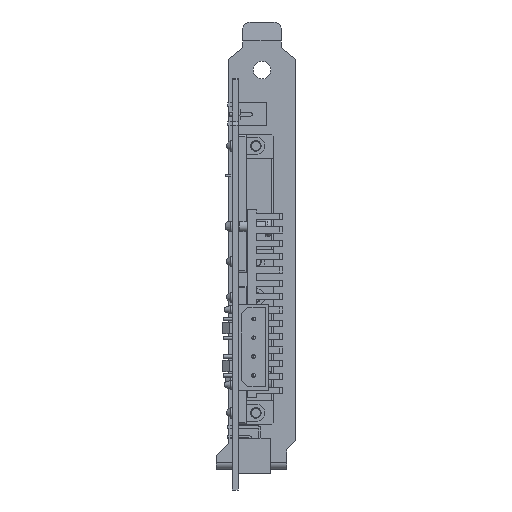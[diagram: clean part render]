
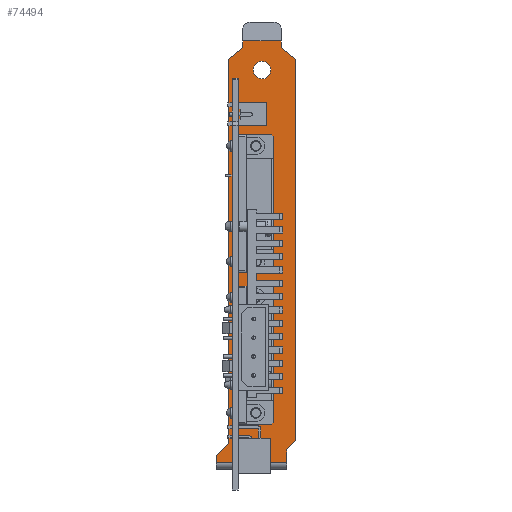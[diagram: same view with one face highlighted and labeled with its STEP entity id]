
A CAD part, front view. The second image highlights one B-rep face of the part: STEP entity #74494.
In plain terms, the highlighted planar face has unit normal (0, -1, 0).
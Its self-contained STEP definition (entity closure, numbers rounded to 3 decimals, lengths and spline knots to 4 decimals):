
#17318=DIRECTION('',(0.,0.,1.));
#17319=VECTOR('',#17318,1.4669);
#17320=CARTESIAN_POINT('',(0.062,0.325,-1.701));
#17321=LINE('',#17320,#17319);
#17322=DIRECTION('',(1.,0.,0.));
#17323=VECTOR('',#17322,0.3524);
#17324=CARTESIAN_POINT('',(0.062,0.325,-0.2341));
#17325=LINE('',#17324,#17323);
#17338=DIRECTION('',(1.,0.,0.));
#17339=VECTOR('',#17338,0.412);
#17340=CARTESIAN_POINT('',(0.108,0.325,0.7642));
#17341=LINE('',#17340,#17339);
#17342=DIRECTION('',(0.,0.,-1.));
#17343=VECTOR('',#17342,0.074);
#17344=CARTESIAN_POINT('',(0.52,0.325,0.7642));
#17345=LINE('',#17344,#17343);
#17346=DIRECTION('',(-0.788,0.,0.616));
#17347=VECTOR('',#17346,0.1967);
#17348=CARTESIAN_POINT('',(0.675,0.325,0.5691));
#17349=LINE('',#17348,#17347);
#17350=DIRECTION('',(0.707,0.,0.707));
#17351=VECTOR('',#17350,0.1414);
#17352=CARTESIAN_POINT('',(0.575,0.325,-3.5828));
#17353=LINE('',#17352,#17351);
#17354=DIRECTION('',(0.,0.,1.));
#17355=VECTOR('',#17354,0.137);
#17356=CARTESIAN_POINT('',(0.575,0.325,-3.7198));
#17357=LINE('',#17356,#17355);
#17358=DIRECTION('',(-1.,0.,0.));
#17359=VECTOR('',#17358,0.75);
#17360=CARTESIAN_POINT('',(0.575,0.325,-3.7198));
#17361=LINE('',#17360,#17359);
#17362=DIRECTION('',(-0.707,0.,-0.707));
#17363=VECTOR('',#17362,0.181);
#17364=CARTESIAN_POINT('',(-0.047,0.325,-3.5138));
#17365=LINE('',#17364,#17363);
#17366=DIRECTION('',(0.,0.,-1.));
#17367=VECTOR('',#17366,4.0829);
#17368=CARTESIAN_POINT('',(-0.047,0.325,0.5691));
#17369=LINE('',#17368,#17367);
#17370=DIRECTION('',(-0.788,0.,-0.616));
#17371=VECTOR('',#17370,0.1967);
#17372=CARTESIAN_POINT('',(0.108,0.325,0.6902));
#17373=LINE('',#17372,#17371);
#17374=DIRECTION('',(0.,0.,-1.));
#17375=VECTOR('',#17374,0.074);
#17376=CARTESIAN_POINT('',(0.108,0.325,0.7642));
#17377=LINE('',#17376,#17375);
#17378=CARTESIAN_POINT('',(0.314,0.325,0.4532));
#17379=DIRECTION('',(0.,1.,0.));
#17380=DIRECTION('',(0.,0.,1.));
#17381=AXIS2_PLACEMENT_3D('',#17378,#17379,#17380);
#17383=CARTESIAN_POINT('',(0.314,0.325,0.4532));
#17384=DIRECTION('',(0.,1.,0.));
#17385=DIRECTION('',(0.,0.,-1.));
#17386=AXIS2_PLACEMENT_3D('',#17383,#17384,#17385);
#17388=CARTESIAN_POINT('',(0.239,0.325,-0.0148));
#17389=DIRECTION('',(0.,1.,0.));
#17390=DIRECTION('',(0.,0.,-1.));
#17391=AXIS2_PLACEMENT_3D('',#17388,#17389,#17390);
#17393=CARTESIAN_POINT('',(0.239,0.325,-0.0148));
#17394=DIRECTION('',(0.,1.,0.));
#17395=DIRECTION('',(0.,0.,1.));
#17396=AXIS2_PLACEMENT_3D('',#17393,#17394,#17395);
#17444=DIRECTION('',(0.,0.,1.));
#17445=VECTOR('',#17444,0.078);
#17446=CARTESIAN_POINT('',(-0.175,0.325,-3.7198));
#17447=LINE('',#17446,#17445);
#17798=DIRECTION('',(0.,0.,1.));
#17799=VECTOR('',#17798,4.0519);
#17800=CARTESIAN_POINT('',(0.675,0.325,-3.4828));
#17801=LINE('',#17800,#17799);
#20320=DIRECTION('',(-1.,0.,0.));
#20321=VECTOR('',#20320,0.3524);
#20322=CARTESIAN_POINT('',(0.4144,0.325,-3.3079));
#20323=LINE('',#20322,#20321);
#20344=DIRECTION('',(0.,0.,1.));
#20345=VECTOR('',#20344,1.4669);
#20346=CARTESIAN_POINT('',(0.062,0.325,-3.3079));
#20347=LINE('',#20346,#20345);
#20348=DIRECTION('',(1.,0.,0.));
#20349=VECTOR('',#20348,0.3524);
#20350=CARTESIAN_POINT('',(0.062,0.325,-1.841));
#20351=LINE('',#20350,#20349);
#20364=DIRECTION('',(-0.707,0.,0.707));
#20365=VECTOR('',#20364,0.0278);
#20366=CARTESIAN_POINT('',(0.434,0.325,-1.8607));
#20367=LINE('',#20366,#20365);
#20368=DIRECTION('',(0.,0.,-1.));
#20369=VECTOR('',#20368,1.4276);
#20370=CARTESIAN_POINT('',(0.434,0.325,-1.8607));
#20371=LINE('',#20370,#20369);
#20392=DIRECTION('',(-0.707,0.,-0.707));
#20393=VECTOR('',#20392,0.0278);
#20394=CARTESIAN_POINT('',(0.434,0.325,-3.2882));
#20395=LINE('',#20394,#20393);
#34167=DIRECTION('',(-0.707,0.,0.707));
#34168=VECTOR('',#34167,0.0278);
#34169=CARTESIAN_POINT('',(0.434,0.325,-0.2538));
#34170=LINE('',#34169,#34168);
#34171=DIRECTION('',(0.,0.,-1.));
#34172=VECTOR('',#34171,1.4276);
#34173=CARTESIAN_POINT('',(0.434,0.325,-0.2538));
#34174=LINE('',#34173,#34172);
#34195=DIRECTION('',(-0.707,0.,-0.707));
#34196=VECTOR('',#34195,0.0278);
#34197=CARTESIAN_POINT('',(0.434,0.325,-1.6813));
#34198=LINE('',#34197,#34196);
#34199=DIRECTION('',(-1.,0.,0.));
#34200=VECTOR('',#34199,0.3524);
#34201=CARTESIAN_POINT('',(0.4144,0.325,-1.701));
#34202=LINE('',#34201,#34200);
#46036=CARTESIAN_POINT('',(-0.175,0.325,-3.7198));
#46038=VERTEX_POINT('',#46036);
#46039=CARTESIAN_POINT('',(0.575,0.325,-3.7198));
#46041=VERTEX_POINT('',#46039);
#46043=CARTESIAN_POINT('',(0.575,0.325,-3.5828));
#46044=VERTEX_POINT('',#46043);
#46045=CARTESIAN_POINT('',(0.675,0.325,-3.4828));
#46046=VERTEX_POINT('',#46045);
#46047=CARTESIAN_POINT('',(0.108,0.325,0.6902));
#46048=CARTESIAN_POINT('',(-0.047,0.325,0.5691));
#46049=VERTEX_POINT('',#46047);
#46050=VERTEX_POINT('',#46048);
#46051=CARTESIAN_POINT('',(-0.047,0.325,-3.5138));
#46052=VERTEX_POINT('',#46051);
#46053=CARTESIAN_POINT('',(-0.175,0.325,-3.6418));
#46054=VERTEX_POINT('',#46053);
#46055=CARTESIAN_POINT('',(0.675,0.325,0.5691));
#46056=CARTESIAN_POINT('',(0.52,0.325,0.6902));
#46057=VERTEX_POINT('',#46055);
#46058=VERTEX_POINT('',#46056);
#46167=CARTESIAN_POINT('',(0.314,0.325,0.5467));
#46168=CARTESIAN_POINT('',(0.314,0.325,0.3597));
#46169=VERTEX_POINT('',#46167);
#46170=VERTEX_POINT('',#46168);
#46171=CARTESIAN_POINT('',(0.108,0.325,0.7642));
#46172=VERTEX_POINT('',#46171);
#46173=CARTESIAN_POINT('',(0.52,0.325,0.7642));
#46174=VERTEX_POINT('',#46173);
#46223=CARTESIAN_POINT('',(0.239,0.325,-0.1123));
#46224=CARTESIAN_POINT('',(0.239,0.325,0.0827));
#46225=VERTEX_POINT('',#46223);
#46226=VERTEX_POINT('',#46224);
#46251=CARTESIAN_POINT('',(0.4144,0.325,-3.3079));
#46252=CARTESIAN_POINT('',(0.062,0.325,-3.3079));
#46253=VERTEX_POINT('',#46251);
#46254=VERTEX_POINT('',#46252);
#46255=CARTESIAN_POINT('',(0.062,0.325,-1.841));
#46256=VERTEX_POINT('',#46255);
#46257=CARTESIAN_POINT('',(0.4144,0.325,-1.841));
#46258=VERTEX_POINT('',#46257);
#46259=CARTESIAN_POINT('',(0.434,0.325,-1.8607));
#46260=CARTESIAN_POINT('',(0.434,0.325,-3.2882));
#46261=VERTEX_POINT('',#46259);
#46262=VERTEX_POINT('',#46260);
#46287=CARTESIAN_POINT('',(0.4144,0.325,-1.701));
#46288=CARTESIAN_POINT('',(0.062,0.325,-1.701));
#46289=VERTEX_POINT('',#46287);
#46290=VERTEX_POINT('',#46288);
#46291=CARTESIAN_POINT('',(0.062,0.325,-0.2341));
#46292=VERTEX_POINT('',#46291);
#46293=CARTESIAN_POINT('',(0.4144,0.325,-0.2341));
#46294=VERTEX_POINT('',#46293);
#46295=CARTESIAN_POINT('',(0.434,0.325,-0.2538));
#46296=CARTESIAN_POINT('',(0.434,0.325,-1.6813));
#46297=VERTEX_POINT('',#46295);
#46298=VERTEX_POINT('',#46296);
#74425=CARTESIAN_POINT('',(0.675,0.325,-3.7198));
#74426=DIRECTION('',(0.,1.,0.));
#74427=DIRECTION('',(0.,0.,1.));
#74428=AXIS2_PLACEMENT_3D('',#74425,#74426,#74427);
#74429=PLANE('',#74428);
#74431=ORIENTED_EDGE('',*,*,#74430,.T.);
#74433=ORIENTED_EDGE('',*,*,#74432,.T.);
#74435=ORIENTED_EDGE('',*,*,#74434,.F.);
#74437=ORIENTED_EDGE('',*,*,#74436,.F.);
#74439=ORIENTED_EDGE('',*,*,#74438,.F.);
#74441=ORIENTED_EDGE('',*,*,#74440,.F.);
#74443=ORIENTED_EDGE('',*,*,#74442,.T.);
#74445=ORIENTED_EDGE('',*,*,#74444,.T.);
#74447=ORIENTED_EDGE('',*,*,#74446,.F.);
#74449=ORIENTED_EDGE('',*,*,#74448,.F.);
#74451=ORIENTED_EDGE('',*,*,#74450,.F.);
#74453=ORIENTED_EDGE('',*,*,#74452,.F.);
#74454=EDGE_LOOP('',(#74431,#74433,#74435,#74437,#74439,#74441,#74443,#74445,
#74447,#74449,#74451,#74453));
#74455=FACE_OUTER_BOUND('',#74454,.F.);
#74457=ORIENTED_EDGE('',*,*,#74456,.F.);
#74459=ORIENTED_EDGE('',*,*,#74458,.F.);
#74460=EDGE_LOOP('',(#74457,#74459));
#74461=FACE_BOUND('',#74460,.F.);
#74463=ORIENTED_EDGE('',*,*,#74462,.F.);
#74465=ORIENTED_EDGE('',*,*,#74464,.F.);
#74466=EDGE_LOOP('',(#74463,#74465));
#74467=FACE_BOUND('',#74466,.F.);
#74469=ORIENTED_EDGE('',*,*,#74468,.F.);
#74471=ORIENTED_EDGE('',*,*,#74470,.F.);
#74473=ORIENTED_EDGE('',*,*,#74472,.F.);
#74475=ORIENTED_EDGE('',*,*,#74474,.T.);
#74477=ORIENTED_EDGE('',*,*,#74476,.F.);
#74479=ORIENTED_EDGE('',*,*,#74478,.F.);
#74480=EDGE_LOOP('',(#74469,#74471,#74473,#74475,#74477,#74479));
#74481=FACE_BOUND('',#74480,.F.);
#74483=ORIENTED_EDGE('',*,*,#74482,.F.);
#74485=ORIENTED_EDGE('',*,*,#74484,.F.);
#74487=ORIENTED_EDGE('',*,*,#74486,.F.);
#74489=ORIENTED_EDGE('',*,*,#74488,.T.);
#74490=ORIENTED_EDGE('',*,*,#74409,.F.);
#74491=ORIENTED_EDGE('',*,*,#74399,.F.);
#74492=EDGE_LOOP('',(#74483,#74485,#74487,#74489,#74490,#74491));
#74493=FACE_BOUND('',#74492,.F.);
#74494=ADVANCED_FACE('',(#74455,#74461,#74467,#74481,#74493),#74429,.F.);
#17382=CIRCLE('',#17381,0.0935);
#17387=CIRCLE('',#17386,0.0935);
#17392=CIRCLE('',#17391,0.0975);
#17397=CIRCLE('',#17396,0.0975);
#74399=EDGE_CURVE('',#46290,#46292,#17321,.T.);
#74409=EDGE_CURVE('',#46292,#46294,#17325,.T.);
#74430=EDGE_CURVE('',#46172,#46174,#17341,.T.);
#74432=EDGE_CURVE('',#46174,#46058,#17345,.T.);
#74434=EDGE_CURVE('',#46057,#46058,#17349,.T.);
#74436=EDGE_CURVE('',#46046,#46057,#17801,.T.);
#74438=EDGE_CURVE('',#46044,#46046,#17353,.T.);
#74440=EDGE_CURVE('',#46041,#46044,#17357,.T.);
#74442=EDGE_CURVE('',#46041,#46038,#17361,.T.);
#74444=EDGE_CURVE('',#46038,#46054,#17447,.T.);
#74446=EDGE_CURVE('',#46052,#46054,#17365,.T.);
#74448=EDGE_CURVE('',#46050,#46052,#17369,.T.);
#74450=EDGE_CURVE('',#46049,#46050,#17373,.T.);
#74452=EDGE_CURVE('',#46172,#46049,#17377,.T.);
#74456=EDGE_CURVE('',#46169,#46170,#17382,.T.);
#74458=EDGE_CURVE('',#46170,#46169,#17387,.T.);
#74462=EDGE_CURVE('',#46225,#46226,#17392,.T.);
#74464=EDGE_CURVE('',#46226,#46225,#17397,.T.);
#74468=EDGE_CURVE('',#46253,#46254,#20323,.T.);
#74470=EDGE_CURVE('',#46262,#46253,#20395,.T.);
#74472=EDGE_CURVE('',#46261,#46262,#20371,.T.);
#74474=EDGE_CURVE('',#46261,#46258,#20367,.T.);
#74476=EDGE_CURVE('',#46256,#46258,#20351,.T.);
#74478=EDGE_CURVE('',#46254,#46256,#20347,.T.);
#74482=EDGE_CURVE('',#46289,#46290,#34202,.T.);
#74484=EDGE_CURVE('',#46298,#46289,#34198,.T.);
#74486=EDGE_CURVE('',#46297,#46298,#34174,.T.);
#74488=EDGE_CURVE('',#46297,#46294,#34170,.T.);
